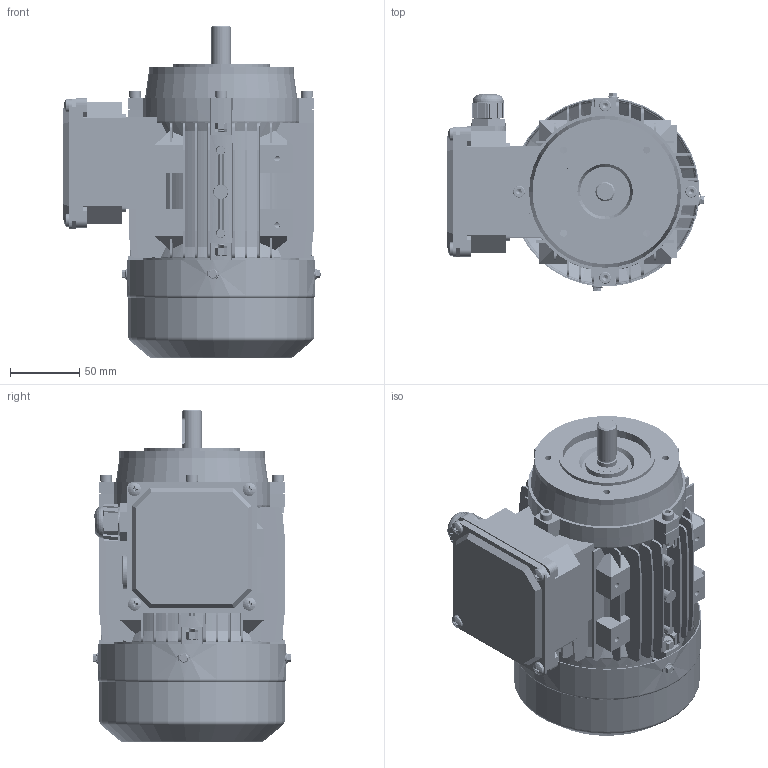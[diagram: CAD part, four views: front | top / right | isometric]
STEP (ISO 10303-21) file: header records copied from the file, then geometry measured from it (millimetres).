
FILE_DESCRIPTION (( 'STEP AP203' ), '1' );
FILE_NAME ('MS71S B14 3D蚾饜芞.STEP', '2024-06-01T08:52:04', ( 'User' ), ( 'China' ), 'SwSTEP 2.0', 'SolidWorks 2018', '' );
FILE_SCHEMA (( 'CONFIG_CONTROL_DESIGN' ));
Products named in the file (20): 蚐猾25X14X4; hex washer head screw_as_AS-NZS 1427 HW - M4 x 6-N; 黑芛20X1.5; pan cross head screw_as_AS-NZS 1427 PC- M4 x 8-S; MS63-71諉盄碟菁釱; pan cross head screw_as_AS-NZS 1427 PC- M5 x 8-S; 8.034.07101MS71 S儂褲; MS63-71諉盄碟裔; 蹟杶郋M20X1.5; 8.013.07102MS71綴傷裔; 8.013.07104MS71B14傷裔; 蹟簸M20X1.5; 8.200.07101MS71 S蛌粣; MS71S B14 3D蚾饜芞; hexagon socket head cap screws gb_GB_FASTENER_SCREWS_HSHCS M5X25-S; hexagon socket head cap screw_as_AS 1420 - M5 x 25-S; spring lock washers--normal type gb_GB_FASTENER_WASHER_SW 5; hexagon nut (grades c) as_AS 1112.3 C- M5-S; hex nuts, style 1-grades ab gb_GB_FASTENER_NUT_SNAB1 M5-N; 8.306.07101MS71邧脯瑞欶
Assembly tree (42 placements, depth 2):
  MS71S B14 3D蚾饜芞
    8.034.07101MS71 S儂褲
    8.013.07102MS71綴傷裔
    8.200.07101MS71 S蛌粣
    hexagon socket head cap screw_as_AS 1420 - M5 x 25-S  x4
    hexagon nut (grades c) as_AS 1112.3 C- M5-S  x4
    8.306.07101MS71邧脯瑞欶
    hex washer head screw_as_AS-NZS 1427 HW - M4 x 6-N  x4
    pan cross head screw_as_AS-NZS 1427 PC- M4 x 8-S  x4
    pan cross head screw_as_AS-NZS 1427 PC- M5 x 8-S  x4
    蹟杶郋M20X1.5
    蹟簸M20X1.5
    hexagon socket head cap screws gb_GB_FASTENER_SCREWS_HSHCS M5X25-S  x4
    spring lock washers--normal type gb_GB_FASTENER_WASHER_SW 5  x4
    hex nuts, style 1-grades ab gb_GB_FASTENER_NUT_SNAB1 M5-N  x3
    蚐猾25X14X4
    黑芛20X1.5
    MS63-71諉盄碟菁釱
    MS63-71諉盄碟裔
    8.013.07104MS71B14傷裔
Bounding box: 185.9 x 143.8 x 240.1 mm (x, y, z)
Volume: 603129.5 mm3; surface area: 443015.8 mm2
Topology: 42 solids, 51 shells, 5961 faces, 14383 edges, 8584 vertices
Faces by surface type: plane 2172, cone 1974, cylinder 1546, bspline 146, torus 107, sphere 16
Entity records: 131625 total; most frequent: CARTESIAN_POINT 42870, ORIENTED_EDGE 18774, DIRECTION 16722, EDGE_CURVE 9387, VERTEX_POINT 5977, AXIS2_PLACEMENT_3D 5632, VECTOR 5458, LINE 5458
